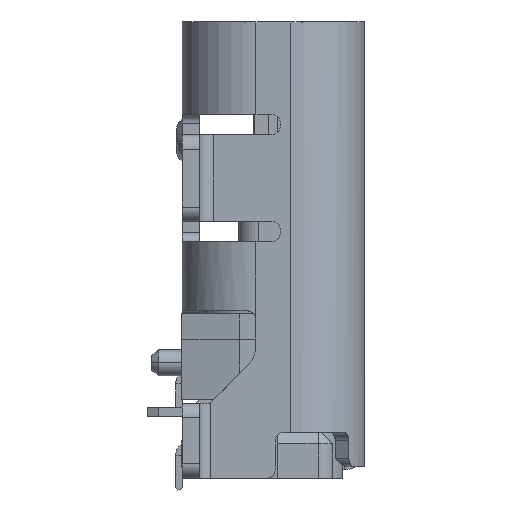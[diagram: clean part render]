
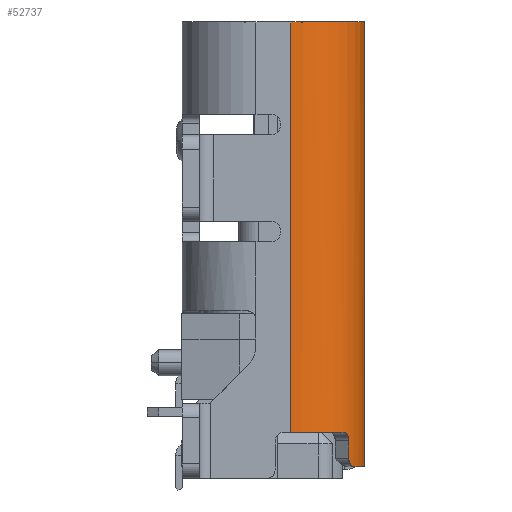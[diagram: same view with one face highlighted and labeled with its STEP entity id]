
A CAD part, left-side view. The second image highlights one B-rep face of the part: STEP entity #52737.
In plain terms, the highlighted cylindrical face has radius 1.28 mm (diameter 2.56 mm), a partial arc.
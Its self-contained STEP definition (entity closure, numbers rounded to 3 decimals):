
#457 = EDGE_CURVE ( 'NONE', #7899, #48332, #2988, .T. ) ;
#2161 = AXIS2_PLACEMENT_3D ( 'NONE', #19444, #40937, #62458 ) ;
#2988 = CIRCLE ( 'NONE', #15353, 1.28 ) ;
#3111 = DIRECTION ( 'NONE',  ( 0., 0., -1. ) ) ;
#3210 = ORIENTED_EDGE ( 'NONE', *, *, #53849, .T. ) ;
#3218 = EDGE_CURVE ( 'NONE', #48332, #23933, #33834, .T. ) ;
#3533 = CARTESIAN_POINT ( 'NONE',  ( -3.898, -1.366, -2.595 ) ) ;
#3958 = CARTESIAN_POINT ( 'NONE',  ( -4.06, -1.239, -2.005 ) ) ;
#4043 = AXIS2_PLACEMENT_3D ( 'NONE', #37144, #58668, #10359 ) ;
#4085 = CARTESIAN_POINT ( 'NONE',  ( -3.982, -1.306, -2.15 ) ) ;
#5292 = VERTEX_POINT ( 'NONE', #57096 ) ;
#7899 = VERTEX_POINT ( 'NONE', #23327 ) ;
#8485 = LINE ( 'NONE', #29981, #14259 ) ;
#9238 = CARTESIAN_POINT ( 'NONE',  ( -3.986, -1.303, -2.103 ) ) ;
#9823 = DIRECTION ( 'NONE',  ( 0., 0., -1. ) ) ;
#10359 = DIRECTION ( 'NONE',  ( 1., 0., 0. ) ) ;
#11301 = CARTESIAN_POINT ( 'NONE',  ( -4.47, -0.3, 5.1 ) ) ;
#11576 = EDGE_LOOP ( 'NONE', ( #19476, #66745, #42157, #38715, #45941, #3210, #27609, #69051 ) ) ;
#13970 = CIRCLE ( 'NONE', #53368, 1.28 ) ;
#14147 = VERTEX_POINT ( 'NONE', #4085 ) ;
#14259 = VECTOR ( 'NONE', #51501, 1000. ) ;
#14313 = VECTOR ( 'NONE', #3111, 1000. ) ;
#15353 = AXIS2_PLACEMENT_3D ( 'NONE', #58125, #9823, #31311 ) ;
#15663 = CYLINDRICAL_SURFACE ( 'NONE', #4043, 1.28 ) ;
#16134 = CARTESIAN_POINT ( 'NONE',  ( -4.094, -1.206, -2. ) ) ;
#16293 = VERTEX_POINT ( 'NONE', #16134 ) ;
#19255 = DIRECTION ( 'NONE',  ( -1., 0., 0. ) ) ;
#19444 = CARTESIAN_POINT ( 'NONE',  ( -3.19, -0.3, -2. ) ) ;
#19476 = ORIENTED_EDGE ( 'NONE', *, *, #53433, .T. ) ;
#19728 = CARTESIAN_POINT ( 'NONE',  ( -3.982, -1.306, -2.466 ) ) ;
#23327 = CARTESIAN_POINT ( 'NONE',  ( -3.19, -1.58, -2.6 ) ) ;
#23933 = VERTEX_POINT ( 'NONE', #37789 ) ;
#25026 = CARTESIAN_POINT ( 'NONE',  ( -3.934, -1.342, -2.573 ) ) ;
#25257 = LINE ( 'NONE', #46755, #67153 ) ;
#25463 = CARTESIAN_POINT ( 'NONE',  ( -4.083, -1.217, -2. ) ) ;
#26109 = EDGE_CURVE ( 'NONE', #56447, #5292, #25257, .T. ) ;
#26685 = EDGE_CURVE ( 'NONE', #14147, #16293, #35384, .T. ) ;
#27609 = ORIENTED_EDGE ( 'NONE', *, *, #3218, .F. ) ;
#29887 = LINE ( 'NONE', #51411, #14313 ) ;
#29981 = CARTESIAN_POINT ( 'NONE',  ( -3.19, -1.58, -2.6 ) ) ;
#30315 = CARTESIAN_POINT ( 'NONE',  ( -3.858, -1.392, -2.6 ) ) ;
#30732 = CARTESIAN_POINT ( 'NONE',  ( -4.003, -1.289, -2.06 ) ) ;
#31311 = DIRECTION ( 'NONE',  ( 0., -1., 0. ) ) ;
#32541 = CIRCLE ( 'NONE', #2161, 1.28 ) ;
#33834 = B_SPLINE_CURVE_WITH_KNOTS ( 'NONE', 3,
 ( #30315, #51830, #3533, #25026, #46520, #68029, #19728, #41223 ),
 .UNSPECIFIED., .F., .F.,
 ( 4, 1, 1, 1, 1, 4 ),
 ( 0., 0.2, 0.4, 0.6, 0.8, 1. ),
 .UNSPECIFIED. ) ;
#34197 = VERTEX_POINT ( 'NONE', #60954 ) ;
#35384 = B_SPLINE_CURVE_WITH_KNOTS ( 'NONE', 3,
 ( #36028, #57550, #9238, #30732, #52250, #3958, #25463, #46963 ),
 .UNSPECIFIED., .F., .F.,
 ( 4, 1, 1, 1, 1, 4 ),
 ( 0., 0.2, 0.4, 0.6, 0.8, 1. ),
 .UNSPECIFIED. ) ;
#36028 = CARTESIAN_POINT ( 'NONE',  ( -3.982, -1.306, -2.15 ) ) ;
#37144 = CARTESIAN_POINT ( 'NONE',  ( -3.19, -0.3, 5.1 ) ) ;
#37789 = CARTESIAN_POINT ( 'NONE',  ( -3.982, -1.306, -2.45 ) ) ;
#38715 = ORIENTED_EDGE ( 'NONE', *, *, #57424, .F. ) ;
#40937 = DIRECTION ( 'NONE',  ( 0., 0., -1. ) ) ;
#41223 = CARTESIAN_POINT ( 'NONE',  ( -3.982, -1.306, -2.45 ) ) ;
#42157 = ORIENTED_EDGE ( 'NONE', *, *, #26109, .T. ) ;
#45941 = ORIENTED_EDGE ( 'NONE', *, *, #26685, .F. ) ;
#46053 = CARTESIAN_POINT ( 'NONE',  ( -3.19, -0.3, 5.1 ) ) ;
#46520 = CARTESIAN_POINT ( 'NONE',  ( -3.961, -1.322, -2.54 ) ) ;
#46755 = CARTESIAN_POINT ( 'NONE',  ( -4.47, -0.3, 5.1 ) ) ;
#46963 = CARTESIAN_POINT ( 'NONE',  ( -4.094, -1.206, -2. ) ) ;
#48332 = VERTEX_POINT ( 'NONE', #48534 ) ;
#48534 = CARTESIAN_POINT ( 'NONE',  ( -3.858, -1.392, -2.6 ) ) ;
#48996 = EDGE_CURVE ( 'NONE', #56447, #34197, #13970, .T. ) ;
#51411 = CARTESIAN_POINT ( 'NONE',  ( -3.982, -1.306, -2.15 ) ) ;
#51501 = DIRECTION ( 'NONE',  ( 0., 0., 1. ) ) ;
#51830 = CARTESIAN_POINT ( 'NONE',  ( -3.872, -1.383, -2.6 ) ) ;
#52250 = CARTESIAN_POINT ( 'NONE',  ( -4.028, -1.267, -2.027 ) ) ;
#52737 = ADVANCED_FACE ( 'NONE', ( #63959 ), #15663, .T. ) ;
#53368 = AXIS2_PLACEMENT_3D ( 'NONE', #46053, #67559, #19255 ) ;
#53433 = EDGE_CURVE ( 'NONE', #7899, #34197, #8485, .T. ) ;
#53849 = EDGE_CURVE ( 'NONE', #14147, #23933, #29887, .T. ) ;
#56447 = VERTEX_POINT ( 'NONE', #11301 ) ;
#57096 = CARTESIAN_POINT ( 'NONE',  ( -4.47, -0.3, -2. ) ) ;
#57424 = EDGE_CURVE ( 'NONE', #16293, #5292, #32541, .T. ) ;
#57550 = CARTESIAN_POINT ( 'NONE',  ( -3.982, -1.306, -2.134 ) ) ;
#58125 = CARTESIAN_POINT ( 'NONE',  ( -3.19, -0.3, -2.6 ) ) ;
#58668 = DIRECTION ( 'NONE',  ( 0., 0., 1. ) ) ;
#60954 = CARTESIAN_POINT ( 'NONE',  ( -3.19, -1.58, 5.1 ) ) ;
#62458 = DIRECTION ( 'NONE',  ( -0.706, -0.708, 0. ) ) ;
#63959 = FACE_OUTER_BOUND ( 'NONE', #11576, .T. ) ;
#66745 = ORIENTED_EDGE ( 'NONE', *, *, #48996, .F. ) ;
#67153 = VECTOR ( 'NONE', #68261, 1000. ) ;
#67559 = DIRECTION ( 'NONE',  ( 0., 0., 1. ) ) ;
#68029 = CARTESIAN_POINT ( 'NONE',  ( -3.978, -1.309, -2.497 ) ) ;
#68261 = DIRECTION ( 'NONE',  ( 0., 0., -1. ) ) ;
#69051 = ORIENTED_EDGE ( 'NONE', *, *, #457, .F. ) ;
